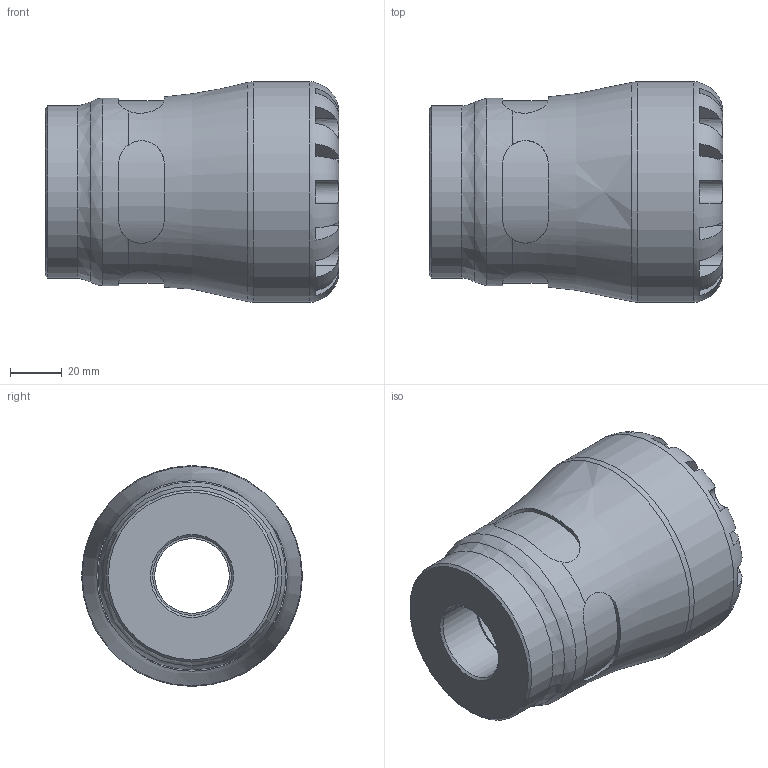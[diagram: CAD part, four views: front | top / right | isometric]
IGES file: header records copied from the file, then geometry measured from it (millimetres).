
Global section: file name: 107300050010_197300050010.ipt; native system: Autodesk Inventor 2015; preprocessor: unknown; author: KIM; date: 20170122.113618; units: millimetre
Bounding box: 113 x 85 x 85 mm (x, y, z)
Volume: 328416.4 mm3; surface area: 52613.9 mm2
Topology: 1 solids, 1 shells, 104 faces, 279 edges, 180 vertices
Faces by surface type: plane 61, revolution 27, cylinder 15, cone 1
Full cylindrical faces by diameter (mm): 66.3 x1, 72.25 x1, 85 x1
